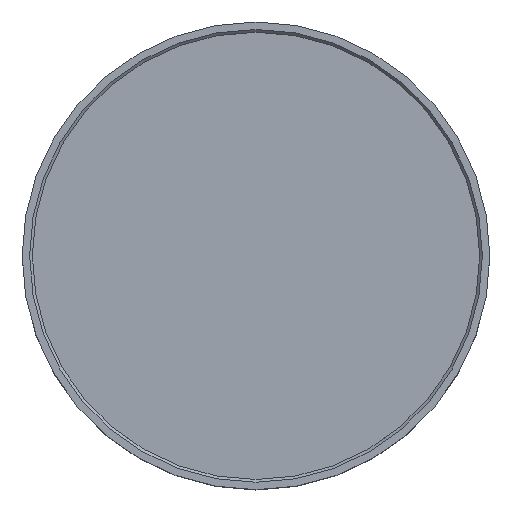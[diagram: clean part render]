
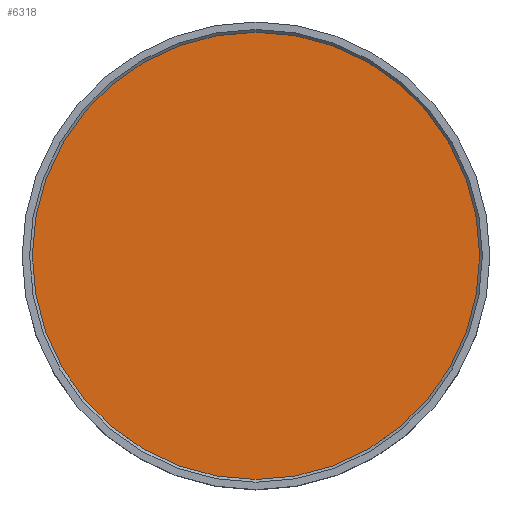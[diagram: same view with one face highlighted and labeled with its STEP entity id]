
A CAD part, top view. The second image highlights one B-rep face of the part: STEP entity #6318.
In plain terms, the highlighted planar face has unit normal (0, 0, 1).
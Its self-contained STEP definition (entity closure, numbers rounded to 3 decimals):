
#4460 = AXIS2_PLACEMENT_3D ( 'NONE', #8712, #13739, #9970 ) ;
#6152 = DIRECTION ( 'NONE',  ( -1., 0., 0. ) ) ;
#6318 = ADVANCED_FACE ( 'NONE', ( #7215 ), #14969, .F. ) ;
#6503 = CARTESIAN_POINT ( 'NONE',  ( -41.125, 0., 147.283 ) ) ;
#7004 = ORIENTED_EDGE ( 'NONE', *, *, #11567, .F. ) ;
#7215 = FACE_OUTER_BOUND ( 'NONE', #11394, .T. ) ;
#7440 = DIRECTION ( 'NONE',  ( 0., 0., -1. ) ) ;
#8251 = CIRCLE ( 'NONE', #16247, 41.125 ) ;
#8712 = CARTESIAN_POINT ( 'NONE',  ( 0., 40.999, 147.283 ) ) ;
#9970 = DIRECTION ( 'NONE',  ( -1., 0., 0. ) ) ;
#9974 = VERTEX_POINT ( 'NONE', #6503 ) ;
#11394 = EDGE_LOOP ( 'NONE', ( #7004 ) ) ;
#11567 = EDGE_CURVE ( 'NONE', #9974, #9974, #8251, .T. ) ;
#13739 = DIRECTION ( 'NONE',  ( 0., 0., -1. ) ) ;
#14947 = CARTESIAN_POINT ( 'NONE',  ( 0., 0., 147.283 ) ) ;
#14969 = PLANE ( 'NONE',  #4460 ) ;
#16247 = AXIS2_PLACEMENT_3D ( 'NONE', #14947, #7440, #6152 ) ;
